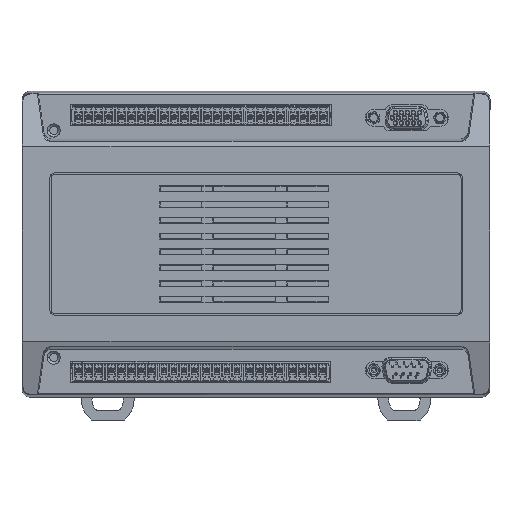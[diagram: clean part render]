
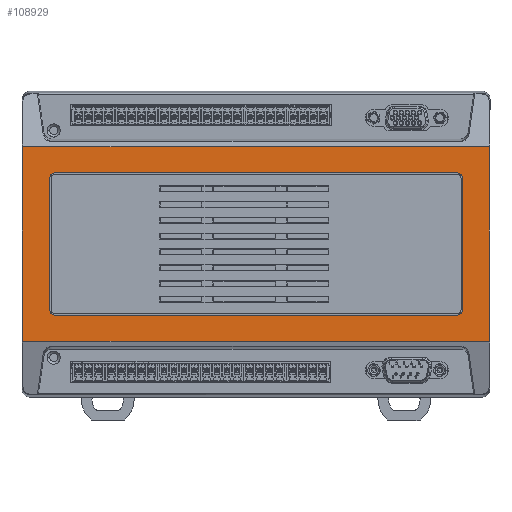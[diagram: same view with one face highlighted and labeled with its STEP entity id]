
A CAD part, top view. The second image highlights one B-rep face of the part: STEP entity #108929.
In plain terms, the highlighted planar face has unit normal (0, 0, 1).
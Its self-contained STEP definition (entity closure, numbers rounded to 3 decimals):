
#1662 = VERTEX_POINT ( 'NONE', #111925 ) ;
#3672 = EDGE_CURVE ( 'NONE', #20733, #62364, #37600, .T. ) ;
#6764 = ORIENTED_EDGE ( 'NONE', *, *, #85481, .T. ) ;
#10038 = CARTESIAN_POINT ( 'NONE',  ( -4.15, 18.173, 17. ) ) ;
#13902 = EDGE_CURVE ( 'NONE', #62364, #25574, #23331, .T. ) ;
#15142 = ORIENTED_EDGE ( 'NONE', *, *, #114292, .T. ) ;
#17487 = CARTESIAN_POINT ( 'NONE',  ( 162.5, 80., 17. ) ) ;
#18256 = CARTESIAN_POINT ( 'NONE',  ( 6., 30., 17. ) ) ;
#19622 = DIRECTION ( 'NONE',  ( 1., 0., 0. ) ) ;
#19678 = CIRCLE ( 'NONE', #74074, 2. ) ;
#19923 = EDGE_CURVE ( 'NONE', #54569, #127550, #127834, .T. ) ;
#20733 = VERTEX_POINT ( 'NONE', #18256 ) ;
#20812 = EDGE_CURVE ( 'NONE', #134578, #63062, #78849, .T. ) ;
#21042 = EDGE_CURVE ( 'NONE', #127550, #105225, #35606, .T. ) ;
#21051 = CARTESIAN_POINT ( 'NONE',  ( 173., 91.827, 17. ) ) ;
#23331 = CIRCLE ( 'NONE', #129315, 2. ) ;
#24198 = DIRECTION ( 'NONE',  ( -1., 0., 0. ) ) ;
#24341 = LINE ( 'NONE', #53694, #166756 ) ;
#25574 = VERTEX_POINT ( 'NONE', #41575 ) ;
#25880 = EDGE_CURVE ( 'NONE', #25574, #137619, #24341, .T. ) ;
#32003 = CARTESIAN_POINT ( 'NONE',  ( 160.5, 80., 17. ) ) ;
#35606 = CIRCLE ( 'NONE', #80910, 2. ) ;
#37600 = LINE ( 'NONE', #83033, #76493 ) ;
#40613 = DIRECTION ( 'NONE',  ( 0., -1., 0. ) ) ;
#40813 = CARTESIAN_POINT ( 'NONE',  ( 172.65, 91.827, 17. ) ) ;
#41250 = LINE ( 'NONE', #80171, #137130 ) ;
#41575 = CARTESIAN_POINT ( 'NONE',  ( 8., 82., 17. ) ) ;
#41654 = ORIENTED_EDGE ( 'NONE', *, *, #178560, .T. ) ;
#41805 = CARTESIAN_POINT ( 'NONE',  ( 160.5, 30., 17. ) ) ;
#42271 = LINE ( 'NONE', #157966, #75731 ) ;
#45206 = DIRECTION ( 'NONE',  ( 1., 0., 0. ) ) ;
#51828 = VECTOR ( 'NONE', #24198, 1000. ) ;
#53595 = DIRECTION ( 'NONE',  ( 0., -1., 0. ) ) ;
#53694 = CARTESIAN_POINT ( 'NONE',  ( 173., 82., 17. ) ) ;
#53719 = VECTOR ( 'NONE', #123433, 1000. ) ;
#54169 = ORIENTED_EDGE ( 'NONE', *, *, #13902, .T. ) ;
#54422 = CARTESIAN_POINT ( 'NONE',  ( -4.15, 91.827, 17. ) ) ;
#54569 = VERTEX_POINT ( 'NONE', #17487 ) ;
#57480 = ORIENTED_EDGE ( 'NONE', *, *, #110018, .F. ) ;
#59237 = ORIENTED_EDGE ( 'NONE', *, *, #19923, .T. ) ;
#62364 = VERTEX_POINT ( 'NONE', #171563 ) ;
#63062 = VERTEX_POINT ( 'NONE', #54422 ) ;
#65050 = DIRECTION ( 'NONE',  ( 0., 1., 0. ) ) ;
#67150 = ORIENTED_EDGE ( 'NONE', *, *, #171946, .T. ) ;
#68106 = VECTOR ( 'NONE', #134088, 1000. ) ;
#74074 = AXIS2_PLACEMENT_3D ( 'NONE', #126171, #111940, #169794 ) ;
#75731 = VECTOR ( 'NONE', #143711, 1000. ) ;
#76493 = VECTOR ( 'NONE', #65050, 1000. ) ;
#78849 = LINE ( 'NONE', #21051, #53719 ) ;
#80171 = CARTESIAN_POINT ( 'NONE',  ( 172.65, 113., 17. ) ) ;
#80910 = AXIS2_PLACEMENT_3D ( 'NONE', #41805, #143252, #154710 ) ;
#83033 = CARTESIAN_POINT ( 'NONE',  ( 6., 18., 17. ) ) ;
#85481 = EDGE_CURVE ( 'NONE', #105225, #1662, #112326, .T. ) ;
#87373 = EDGE_LOOP ( 'NONE', ( #67150, #127705, #54169, #114302, #15142, #59237, #135549, #6764 ) ) ;
#87864 = DIRECTION ( 'NONE',  ( 0., 0., 1. ) ) ;
#89782 = DIRECTION ( 'NONE',  ( 0., 0., -1. ) ) ;
#90652 = PLANE ( 'NONE',  #172413 ) ;
#91507 = CIRCLE ( 'NONE', #118781, 2. ) ;
#93221 = LINE ( 'NONE', #149257, #68106 ) ;
#105225 = VERTEX_POINT ( 'NONE', #180813 ) ;
#108929 = ADVANCED_FACE ( 'NONE', ( #119155, #174184 ), #90652, .T. ) ;
#110018 = EDGE_CURVE ( 'NONE', #163210, #63062, #42271, .T. ) ;
#110645 = CARTESIAN_POINT ( 'NONE',  ( 160.5, 82., 17. ) ) ;
#111925 = CARTESIAN_POINT ( 'NONE',  ( 8., 28., 17. ) ) ;
#111940 = DIRECTION ( 'NONE',  ( 0., 0., -1. ) ) ;
#112326 = LINE ( 'NONE', #170182, #51828 ) ;
#114292 = EDGE_CURVE ( 'NONE', #137619, #54569, #91507, .T. ) ;
#114302 = ORIENTED_EDGE ( 'NONE', *, *, #25880, .T. ) ;
#117668 = DIRECTION ( 'NONE',  ( 0., 0., -1. ) ) ;
#118781 = AXIS2_PLACEMENT_3D ( 'NONE', #32003, #89782, #19622 ) ;
#119155 = FACE_BOUND ( 'NONE', #87373, .T. ) ;
#123433 = DIRECTION ( 'NONE',  ( -1., 0., 0. ) ) ;
#125780 = DIRECTION ( 'NONE',  ( 1., 0., 0. ) ) ;
#126171 = CARTESIAN_POINT ( 'NONE',  ( 8., 30., 17. ) ) ;
#127188 = EDGE_CURVE ( 'NONE', #134578, #151929, #41250, .T. ) ;
#127550 = VERTEX_POINT ( 'NONE', #178655 ) ;
#127705 = ORIENTED_EDGE ( 'NONE', *, *, #3672, .T. ) ;
#127834 = LINE ( 'NONE', #186624, #135626 ) ;
#129315 = AXIS2_PLACEMENT_3D ( 'NONE', #160358, #117668, #161290 ) ;
#134088 = DIRECTION ( 'NONE',  ( 1., 0., 0. ) ) ;
#134304 = CARTESIAN_POINT ( 'NONE',  ( 173., 18., 17. ) ) ;
#134578 = VERTEX_POINT ( 'NONE', #40813 ) ;
#135549 = ORIENTED_EDGE ( 'NONE', *, *, #21042, .T. ) ;
#135626 = VECTOR ( 'NONE', #40613, 1000. ) ;
#137130 = VECTOR ( 'NONE', #53595, 1000. ) ;
#137619 = VERTEX_POINT ( 'NONE', #110645 ) ;
#143252 = DIRECTION ( 'NONE',  ( 0., 0., -1. ) ) ;
#143711 = DIRECTION ( 'NONE',  ( 0., 1., 0. ) ) ;
#149257 = CARTESIAN_POINT ( 'NONE',  ( 173., 18.173, 17. ) ) ;
#151929 = VERTEX_POINT ( 'NONE', #169907 ) ;
#154710 = DIRECTION ( 'NONE',  ( 1., 0., 0. ) ) ;
#157966 = CARTESIAN_POINT ( 'NONE',  ( -4.15, -3., 17. ) ) ;
#160358 = CARTESIAN_POINT ( 'NONE',  ( 8., 80., 17. ) ) ;
#161290 = DIRECTION ( 'NONE',  ( 1., 0., 0. ) ) ;
#163210 = VERTEX_POINT ( 'NONE', #10038 ) ;
#166756 = VECTOR ( 'NONE', #125780, 1000. ) ;
#169794 = DIRECTION ( 'NONE',  ( 1., 0., 0. ) ) ;
#169907 = CARTESIAN_POINT ( 'NONE',  ( 172.65, 18.173, 17. ) ) ;
#170182 = CARTESIAN_POINT ( 'NONE',  ( 173., 28., 17. ) ) ;
#171563 = CARTESIAN_POINT ( 'NONE',  ( 6., 80., 17. ) ) ;
#171946 = EDGE_CURVE ( 'NONE', #1662, #20733, #19678, .T. ) ;
#172413 = AXIS2_PLACEMENT_3D ( 'NONE', #134304, #87864, #45206 ) ;
#174184 = FACE_OUTER_BOUND ( 'NONE', #182022, .T. ) ;
#177122 = ORIENTED_EDGE ( 'NONE', *, *, #20812, .T. ) ;
#177887 = ORIENTED_EDGE ( 'NONE', *, *, #127188, .F. ) ;
#178560 = EDGE_CURVE ( 'NONE', #163210, #151929, #93221, .T. ) ;
#178655 = CARTESIAN_POINT ( 'NONE',  ( 162.5, 30., 17. ) ) ;
#180813 = CARTESIAN_POINT ( 'NONE',  ( 160.5, 28., 17. ) ) ;
#182022 = EDGE_LOOP ( 'NONE', ( #41654, #177887, #177122, #57480 ) ) ;
#186624 = CARTESIAN_POINT ( 'NONE',  ( 162.5, 18., 17. ) ) ;
